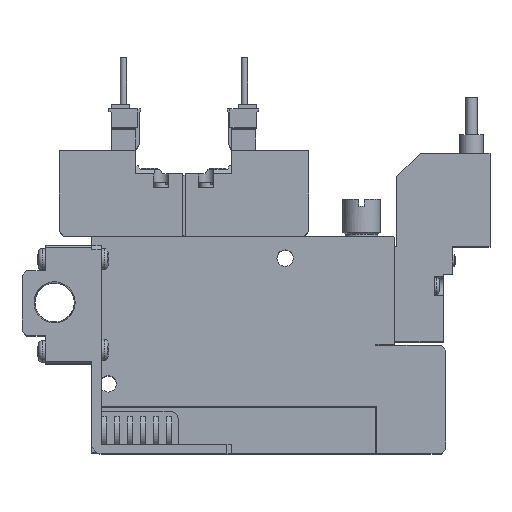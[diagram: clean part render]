
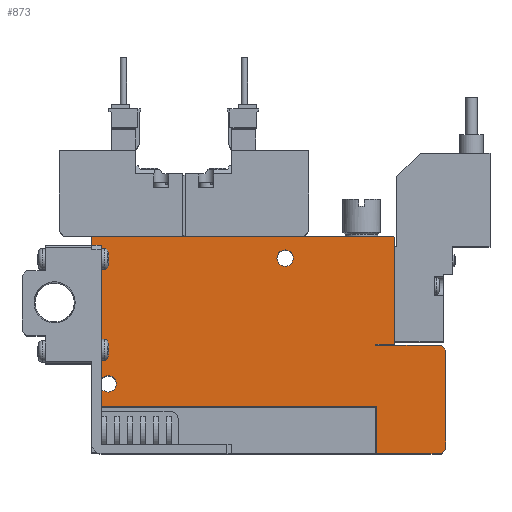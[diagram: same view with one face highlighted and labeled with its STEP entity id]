
A CAD part, top view. The second image highlights one B-rep face of the part: STEP entity #873.
In plain terms, the highlighted planar face has unit normal (0, 0, 1).
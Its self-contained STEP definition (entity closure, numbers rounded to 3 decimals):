
#873=ADVANCED_FACE('',(#2023,#2024,#2025),#2026,.F.);
#2023=FACE_OUTER_BOUND('',#3679,.T.);
#2024=FACE_BOUND('',#3680,.T.);
#2025=FACE_BOUND('',#3681,.T.);
#2026=PLANE('',#3682);
#3679=EDGE_LOOP('',(#7592,#7593,#7594,#7595,#7596,#7597,#7598,#7599,#7600,#7601,#7602,#7603,#7604,#7605));
#3680=EDGE_LOOP('',(#7606));
#3681=EDGE_LOOP('',(#7607));
#3682=AXIS2_PLACEMENT_3D('',#7608,#7609,#7610);
#7592=ORIENTED_EDGE('',*,*,#11183,.T.);
#7593=ORIENTED_EDGE('',*,*,#11357,.F.);
#7594=ORIENTED_EDGE('',*,*,#11176,.F.);
#7595=ORIENTED_EDGE('',*,*,#11192,.T.);
#7596=ORIENTED_EDGE('',*,*,#11168,.T.);
#7597=ORIENTED_EDGE('',*,*,#11256,.T.);
#7598=ORIENTED_EDGE('',*,*,#11258,.T.);
#7599=ORIENTED_EDGE('',*,*,#11250,.T.);
#7600=ORIENTED_EDGE('',*,*,#11358,.T.);
#7601=ORIENTED_EDGE('',*,*,#11359,.T.);
#7602=ORIENTED_EDGE('',*,*,#11360,.T.);
#7603=ORIENTED_EDGE('',*,*,#11333,.T.);
#7604=ORIENTED_EDGE('',*,*,#11361,.T.);
#7605=ORIENTED_EDGE('',*,*,#11220,.T.);
#7606=ORIENTED_EDGE('',*,*,#11362,.F.);
#7607=ORIENTED_EDGE('',*,*,#11363,.F.);
#7608=CARTESIAN_POINT('',(0.0,0.0,5.0));
#7609=DIRECTION('',(0.0,0.0,-1.0));
#7610=DIRECTION('',(0.0,-1.0,0.0));
#11168=EDGE_CURVE('',#13575,#13573,#13576,.T.);
#11176=EDGE_CURVE('',#13589,#13591,#13592,.T.);
#11183=EDGE_CURVE('',#13604,#13602,#13605,.T.);
#11192=EDGE_CURVE('',#13589,#13575,#13619,.T.);
#11220=EDGE_CURVE('',#13671,#13604,#13672,.T.);
#11250=EDGE_CURVE('',#13725,#13723,#13726,.T.);
#11256=EDGE_CURVE('',#13573,#13734,#13736,.T.);
#11258=EDGE_CURVE('',#13734,#13725,#13738,.T.);
#11333=EDGE_CURVE('',#13865,#13863,#13866,.T.);
#11357=EDGE_CURVE('',#13591,#13602,#13899,.T.);
#11358=EDGE_CURVE('',#13723,#13900,#13901,.T.);
#11359=EDGE_CURVE('',#13900,#13902,#13903,.T.);
#11360=EDGE_CURVE('',#13902,#13865,#13904,.T.);
#11361=EDGE_CURVE('',#13863,#13671,#13905,.T.);
#11362=EDGE_CURVE('',#13906,#13906,#13907,.T.);
#11363=EDGE_CURVE('',#13908,#13908,#13909,.T.);
#13573=VERTEX_POINT('',#17602);
#13575=VERTEX_POINT('',#17605);
#13576=LINE('',#17606,#17607);
#13589=VERTEX_POINT('',#17626);
#13591=VERTEX_POINT('',#17629);
#13592=LINE('',#17630,#17631);
#13602=VERTEX_POINT('',#17646);
#13604=VERTEX_POINT('',#17649);
#13605=LINE('',#17650,#17651);
#13619=LINE('',#17672,#17673);
#13671=VERTEX_POINT('',#17779);
#13672=LINE('',#17780,#17781);
#13723=VERTEX_POINT('',#17871);
#13725=VERTEX_POINT('',#17874);
#13726=LINE('',#17875,#17876);
#13734=VERTEX_POINT('',#17886);
#13736=LINE('',#17889,#17890);
#13738=LINE('',#17893,#17894);
#13863=VERTEX_POINT('',#18079);
#13865=VERTEX_POINT('',#18082);
#13866=LINE('',#18083,#18084);
#13899=LINE('',#18143,#18144);
#13900=VERTEX_POINT('',#18145);
#13901=LINE('',#18146,#18147);
#13902=VERTEX_POINT('',#18148);
#13903=LINE('',#18149,#18150);
#13904=LINE('',#18151,#18152);
#13905=LINE('',#18153,#18154);
#13906=VERTEX_POINT('',#18155);
#13907=CIRCLE('',#18156,1.75);
#13908=VERTEX_POINT('',#18157);
#13909=CIRCLE('',#18158,1.75);
#17602=CARTESIAN_POINT('',(76.0,1.0,5.0));
#17605=CARTESIAN_POINT('',(75.0,0.0,5.0));
#17606=CARTESIAN_POINT('',(75.0,0.0,5.0));
#17607=VECTOR('',#21878,1.0);
#17626=CARTESIAN_POINT('',(61.1,0.0,5.0));
#17629=CARTESIAN_POINT('',(61.1,10.1,5.0));
#17630=CARTESIAN_POINT('',(61.1,0.0,5.0));
#17631=VECTOR('',#21886,1.0);
#17646=CARTESIAN_POINT('',(0.0,10.1,5.0));
#17649=CARTESIAN_POINT('',(0.0,46.4,5.0));
#17650=CARTESIAN_POINT('',(0.0,46.4,5.0));
#17651=VECTOR('',#21893,1.0);
#17672=CARTESIAN_POINT('',(0.0,0.0,5.0));
#17673=VECTOR('',#21904,1.0);
#17779=CARTESIAN_POINT('',(0.2,46.6,5.0));
#17780=CARTESIAN_POINT('',(0.2,46.6,5.0));
#17781=VECTOR('',#21942,1.0);
#17871=CARTESIAN_POINT('',(61.0,23.25,5.0));
#17874=CARTESIAN_POINT('',(75.0,23.25,5.0));
#17875=CARTESIAN_POINT('',(75.0,23.25,5.0));
#17876=VECTOR('',#21980,1.0);
#17886=CARTESIAN_POINT('',(76.0,22.25,5.0));
#17889=CARTESIAN_POINT('',(76.0,1.0,5.0));
#17890=VECTOR('',#21990,1.0);
#17893=CARTESIAN_POINT('',(76.0,22.25,5.0));
#17894=VECTOR('',#21992,1.0);
#18079=CARTESIAN_POINT('',(64.8,46.6,5.0));
#18082=CARTESIAN_POINT('',(65.0,46.4,5.0));
#18083=CARTESIAN_POINT('',(65.0,46.4,5.0));
#18084=VECTOR('',#22093,1.0);
#18143=CARTESIAN_POINT('',(61.1,10.1,5.0));
#18144=VECTOR('',#22128,1.0);
#18145=CARTESIAN_POINT('',(61.0,23.5,5.0));
#18146=CARTESIAN_POINT('',(61.0,23.25,5.0));
#18147=VECTOR('',#22129,1.0);
#18148=CARTESIAN_POINT('',(65.0,23.5,5.0));
#18149=CARTESIAN_POINT('',(61.0,23.5,5.0));
#18150=VECTOR('',#22130,1.0);
#18151=CARTESIAN_POINT('',(65.0,23.5,5.0));
#18152=VECTOR('',#22131,1.0);
#18153=CARTESIAN_POINT('',(64.8,46.6,5.0));
#18154=VECTOR('',#22132,1.0);
#18155=CARTESIAN_POINT('',(5.25,15.0,5.0));
#18156=AXIS2_PLACEMENT_3D('',#22133,#22134,#22135);
#18157=CARTESIAN_POINT('',(43.25,42.0,5.0));
#18158=AXIS2_PLACEMENT_3D('',#22136,#22137,#22138);
#21878=DIRECTION('',(0.707,0.707,0.0));
#21886=DIRECTION('',(0.0,1.0,0.0));
#21893=DIRECTION('',(0.0,-1.0,0.0));
#21904=DIRECTION('',(1.0,0.0,0.0));
#21942=DIRECTION('',(-0.707,-0.707,0.0));
#21980=DIRECTION('',(-1.0,0.0,0.0));
#21990=DIRECTION('',(0.0,1.0,0.0));
#21992=DIRECTION('',(-0.707,0.707,0.0));
#22093=DIRECTION('',(-0.707,0.707,0.0));
#22128=DIRECTION('',(-1.0,0.0,0.0));
#22129=DIRECTION('',(0.0,1.0,0.0));
#22130=DIRECTION('',(1.0,0.,0.0));
#22131=DIRECTION('',(0.0,1.0,0.0));
#22132=DIRECTION('',(-1.0,0.0,0.0));
#22133=CARTESIAN_POINT('',(3.5,15.0,5.0));
#22134=DIRECTION('',(0.0,0.0,1.0));
#22135=DIRECTION('',(1.0,0.0,0.0));
#22136=CARTESIAN_POINT('',(41.5,42.0,5.0));
#22137=DIRECTION('',(0.0,0.0,1.0));
#22138=DIRECTION('',(1.0,0.0,0.0));
